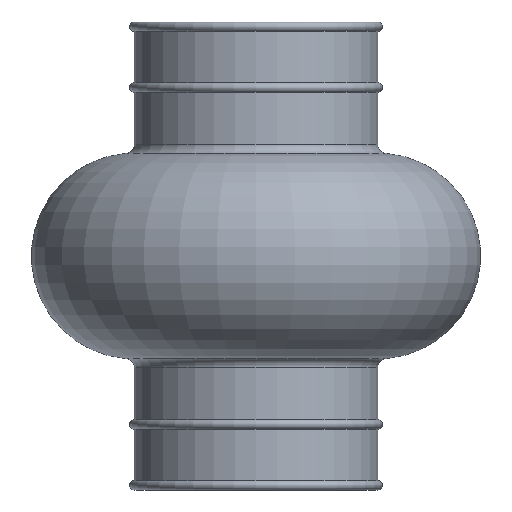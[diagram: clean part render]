
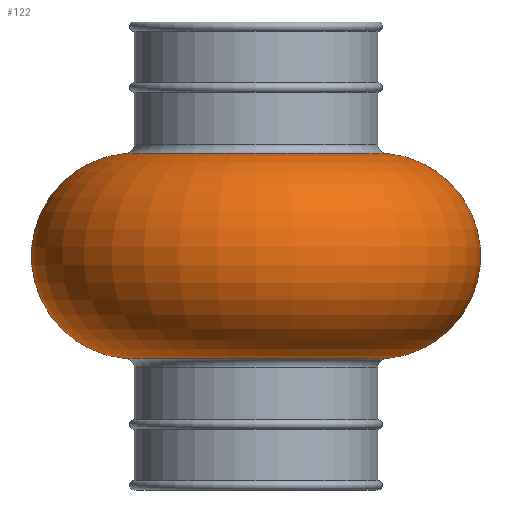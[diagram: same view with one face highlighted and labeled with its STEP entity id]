
A CAD part, left-side view. The second image highlights one B-rep face of the part: STEP entity #122.
In plain terms, the highlighted toroidal (fillet/blend) face has major radius 13 mm and minor radius 11 mm.
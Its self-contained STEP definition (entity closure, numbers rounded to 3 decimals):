
#10 = EDGE_CURVE ( 'NONE', #169, #68, #791, .T. ) ;
#11 = CARTESIAN_POINT ( 'NONE',  ( 0., -13.917, -10.962 ) ) ;
#13 = CARTESIAN_POINT ( 'NONE',  ( 0., 0., 10.962 ) ) ;
#65 = DIRECTION ( 'NONE',  ( 0., 1., 0. ) ) ;
#66 = DIRECTION ( 'NONE',  ( -1., 0., 0. ) ) ;
#68 = VERTEX_POINT ( 'NONE', #667 ) ;
#83 = ORIENTED_EDGE ( 'NONE', *, *, #434, .F. ) ;
#109 = TOROIDAL_SURFACE ( 'NONE', #703, 13., 11. ) ;
#122 = ADVANCED_FACE ( 'NONE', ( #479 ), #109, .T. ) ;
#130 = DIRECTION ( 'NONE',  ( 0., 0., 1. ) ) ;
#143 = CIRCLE ( 'NONE', #583, 11. ) ;
#152 = CARTESIAN_POINT ( 'NONE',  ( 0., 13.917, -10.962 ) ) ;
#169 = VERTEX_POINT ( 'NONE', #424 ) ;
#172 = ORIENTED_EDGE ( 'NONE', *, *, #10, .T. ) ;
#198 = DIRECTION ( 'NONE',  ( 0., 0., -1. ) ) ;
#203 = CARTESIAN_POINT ( 'NONE',  ( 0., 13., 0. ) ) ;
#218 = CARTESIAN_POINT ( 'NONE',  ( 0., -13., 0. ) ) ;
#232 = DIRECTION ( 'NONE',  ( 0., -1., 0. ) ) ;
#252 = AXIS2_PLACEMENT_3D ( 'NONE', #203, #66, #130 ) ;
#288 = EDGE_CURVE ( 'NONE', #68, #371, #801, .T. ) ;
#290 = DIRECTION ( 'NONE',  ( 0., 1., 0. ) ) ;
#295 = CARTESIAN_POINT ( 'NONE',  ( 0., 0., -10.962 ) ) ;
#323 = ORIENTED_EDGE ( 'NONE', *, *, #288, .T. ) ;
#371 = VERTEX_POINT ( 'NONE', #152 ) ;
#415 = ORIENTED_EDGE ( 'NONE', *, *, #497, .T. ) ;
#422 = DIRECTION ( 'NONE',  ( 1., 0., 0. ) ) ;
#424 = CARTESIAN_POINT ( 'NONE',  ( 0., -13.917, 10.962 ) ) ;
#434 = EDGE_CURVE ( 'NONE', #169, #447, #143, .T. ) ;
#447 = VERTEX_POINT ( 'NONE', #11 ) ;
#479 = FACE_OUTER_BOUND ( 'NONE', #733, .T. ) ;
#485 = DIRECTION ( 'NONE',  ( 0., 1., 0. ) ) ;
#487 = DIRECTION ( 'NONE',  ( 0., 0., -1. ) ) ;
#497 = EDGE_CURVE ( 'NONE', #371, #447, #650, .T. ) ;
#537 = CARTESIAN_POINT ( 'NONE',  ( 0., 0., 0. ) ) ;
#583 = AXIS2_PLACEMENT_3D ( 'NONE', #218, #422, #290 ) ;
#626 = DIRECTION ( 'NONE',  ( 0., 0., 1. ) ) ;
#650 = CIRCLE ( 'NONE', #793, 13.917 ) ;
#667 = CARTESIAN_POINT ( 'NONE',  ( 0., 13.917, 10.962 ) ) ;
#703 = AXIS2_PLACEMENT_3D ( 'NONE', #537, #198, #65 ) ;
#733 = EDGE_LOOP ( 'NONE', ( #83, #172, #323, #415 ) ) ;
#791 = CIRCLE ( 'NONE', #857, 13.917 ) ;
#793 = AXIS2_PLACEMENT_3D ( 'NONE', #295, #626, #232 ) ;
#801 = CIRCLE ( 'NONE', #252, 11. ) ;
#857 = AXIS2_PLACEMENT_3D ( 'NONE', #13, #487, #485 ) ;
